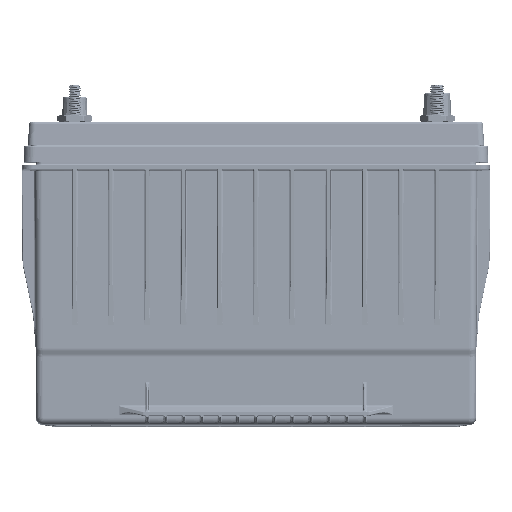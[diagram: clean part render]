
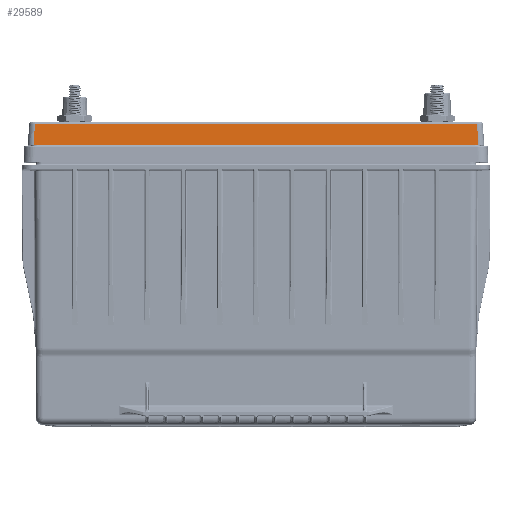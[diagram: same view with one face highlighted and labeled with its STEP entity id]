
A CAD part, top view. The second image highlights one B-rep face of the part: STEP entity #29589.
In plain terms, the highlighted planar face has unit normal (0, 0.052, 0.999).
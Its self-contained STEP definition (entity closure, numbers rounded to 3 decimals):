
#1080 = LINE ( 'NONE', #302666, #268915 ) ;
#5859 = DIRECTION ( 'NONE',  ( -0.052, 0.997, -0.052 ) ) ;
#6978 = EDGE_CURVE ( 'NONE', #390642, #24668, #1080, .T. ) ;
#11920 = VERTEX_POINT ( 'NONE', #259178 ) ;
#15059 = LINE ( 'NONE', #158691, #422865 ) ;
#24668 = VERTEX_POINT ( 'NONE', #282389 ) ;
#26201 = DIRECTION ( 'NONE',  ( 0., 0.052, 0.999 ) ) ;
#29589 = ADVANCED_FACE ( 'NONE', ( #55483 ), #388866, .T. ) ;
#55483 = FACE_OUTER_BOUND ( 'NONE', #458766, .T. ) ;
#59448 = VECTOR ( 'NONE', #322821, 39.37 ) ;
#78833 = CARTESIAN_POINT ( 'NONE',  ( 5.908, 7.469, 3.229 ) ) ;
#79733 = VERTEX_POINT ( 'NONE', #231488 ) ;
#110453 = DIRECTION ( 'NONE',  ( -1., 0., 0. ) ) ;
#135458 = CARTESIAN_POINT ( 'NONE',  ( 6.064, 7.469, 3.229 ) ) ;
#158691 = CARTESIAN_POINT ( 'NONE',  ( -5.875, 8.093, 3.197 ) ) ;
#163999 = VECTOR ( 'NONE', #110453, 39.37 ) ;
#218044 = EDGE_CURVE ( 'NONE', #79733, #11920, #15059, .T. ) ;
#231488 = CARTESIAN_POINT ( 'NONE',  ( -5.878, 8.035, 3.2 ) ) ;
#236499 = DIRECTION ( 'NONE',  ( -0.052, -0.997, 0.052 ) ) ;
#259178 = CARTESIAN_POINT ( 'NONE',  ( -5.908, 7.469, 3.229 ) ) ;
#268915 = VECTOR ( 'NONE', #5859, 39.37 ) ;
#279288 = DIRECTION ( 'NONE',  ( 0., 0.999, -0.052 ) ) ;
#282389 = CARTESIAN_POINT ( 'NONE',  ( 5.878, 8.035, 3.2 ) ) ;
#302666 = CARTESIAN_POINT ( 'NONE',  ( 5.909, 7.461, 3.23 ) ) ;
#319893 = ORIENTED_EDGE ( 'NONE', *, *, #383131, .T. ) ;
#322821 = DIRECTION ( 'NONE',  ( 1., 0., 0. ) ) ;
#331865 = LINE ( 'NONE', #480257, #163999 ) ;
#340717 = ORIENTED_EDGE ( 'NONE', *, *, #6978, .T. ) ;
#353816 = AXIS2_PLACEMENT_3D ( 'NONE', #469074, #26201, #279288 ) ;
#361667 = LINE ( 'NONE', #135458, #59448 ) ;
#369794 = ORIENTED_EDGE ( 'NONE', *, *, #218044, .T. ) ;
#383131 = EDGE_CURVE ( 'NONE', #11920, #390642, #361667, .T. ) ;
#388866 = PLANE ( 'NONE',  #353816 ) ;
#390642 = VERTEX_POINT ( 'NONE', #78833 ) ;
#417640 = EDGE_CURVE ( 'NONE', #24668, #79733, #331865, .T. ) ;
#422865 = VECTOR ( 'NONE', #236499, 39.37 ) ;
#458766 = EDGE_LOOP ( 'NONE', ( #460241, #369794, #319893, #340717 ) ) ;
#460241 = ORIENTED_EDGE ( 'NONE', *, *, #417640, .T. ) ;
#469074 = CARTESIAN_POINT ( 'NONE',  ( 6.064, 7.469, 3.229 ) ) ;
#480257 = CARTESIAN_POINT ( 'NONE',  ( -5.875, 8.035, 3.2 ) ) ;
